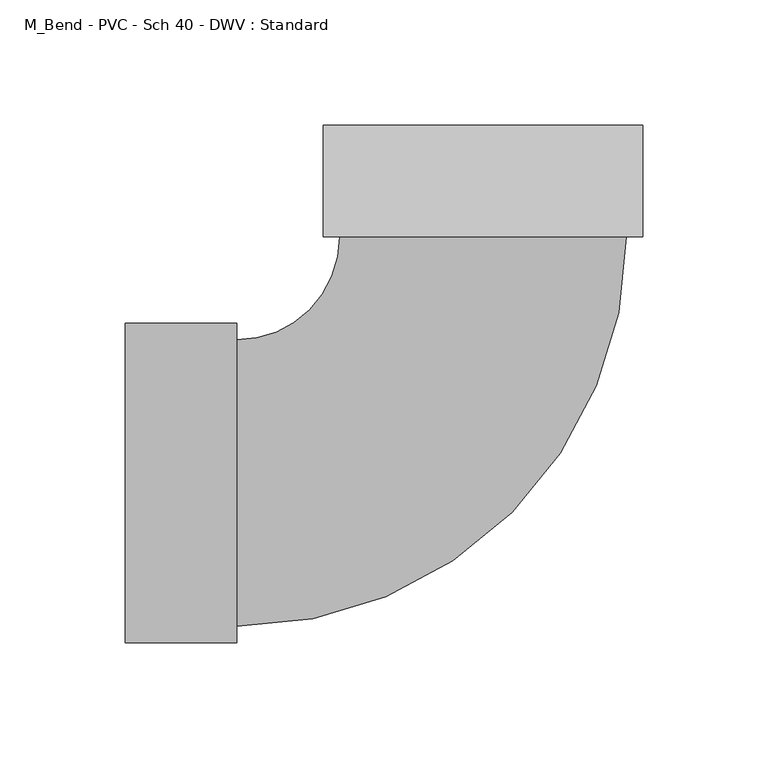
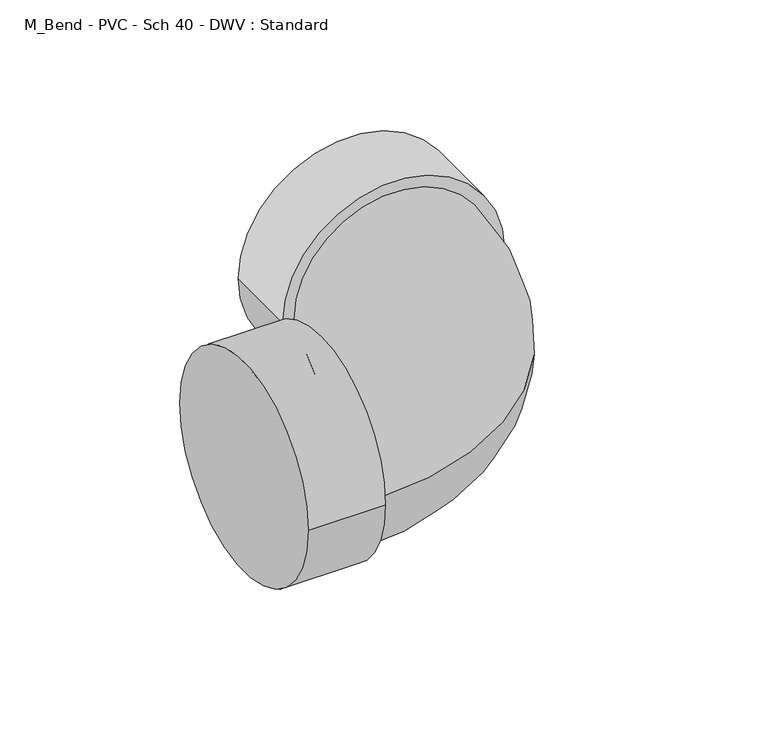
"""IFC4 building model written with IfcOpenShell, lengths in millimetres: pipe fitting geometry, M_Bend - PVC - Sch 40 - DWV : Standard."""

from ifc_helpers import new_model, si_unit, point, frame, origin, place, context, project, spatial, circle_curve, ellipse_curve, trimmed, source, transform, mapped, element, save
from ifc_brep_helpers import plane_surface, cylinder_surface, revolved_surface, advanced_brep


def m_bend_pvc_sch_40_dwv_standard_59af4741(model_context):
    return source(origin(), model_context, "Body", "AdvancedBrep", [
        advanced_brep(
        [(-142.875, -63.754, 0.0), (-142.875, 63.754, 0.0), (-98.425, -63.754, 0.0), (-98.425, 63.754, 0.0), (-98.425, -57.15, 0.0), (-98.425, 57.15, 0.0), (-57.1748784, 98.4105503, 0.0), (57.125118, 98.4394434, 0.0), (63.7291178, 98.4411128, 0.0), (-63.7788782, 98.4088809, 0.0), (63.7178815, 142.8911114, 0.0), (-63.7901144, 142.8588795, 0.0)],
        [
            (0, 1, circle_curve(frame((-142.875, 0.0, 0.0), z_axis=(-1.0, 0.0, 0.0), x_axis=(0.0, 1.0, 0.0)), 63.754)),
            (1, 0, circle_curve(frame((-142.875, 0.0, 0.0), z_axis=(-1.0, 0.0, 0.0), x_axis=(0.0, 1.0, 0.0)), 63.754)),
            (2, 3, circle_curve(frame((-98.425, 0.0, 0.0), z_axis=(1.0, 0.0, 0.0), x_axis=(0.0, 1.0, 0.0)), 63.754)),
            (3, 2, circle_curve(frame((-98.425, 0.0, 0.0), z_axis=(1.0, 0.0, 0.0), x_axis=(0.0, 1.0, 0.0)), 63.754)),
            (4, 5, circle_curve(frame((-98.425, 0.0, 0.0), z_axis=(-1.0, 0.0, 0.0), x_axis=(0.0, 1.0, 0.0)), 57.15)),
            (5, 4, circle_curve(frame((-98.425, 0.0, 0.0), z_axis=(-1.0, 0.0, 0.0), x_axis=(0.0, 1.0, 0.0)), 57.15)),
            (0, 2),
            (3, 1),
            (6, 5, circle_curve(frame((-98.425, 98.4001229, 0.0), z_axis=(0.0, 0.0, -1.0), x_axis=(0.0, -1.0, 0.0)), 41.2501229)),
            (4, 7, circle_curve(frame((-98.425, 98.4001229, 0.0), z_axis=(0.0, 0.0, 1.0), x_axis=(0.0, -1.0, 0.0)), 155.5501229)),
            (7, 6, circle_curve(frame((-0.0248802, 98.4249969, 0.0), z_axis=(0.0002527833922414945, -0.9999999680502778, 0.0), x_axis=(-0.9999999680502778, -0.0002527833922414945, 0.0)), 57.15)),
            (6, 7, circle_curve(frame((-0.0248802, 98.4249969, 0.0), z_axis=(0.0002527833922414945, -0.9999999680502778, 0.0), x_axis=(-0.9999999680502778, -0.0002527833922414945, 0.0)), 57.15)),
            (8, 9, circle_curve(frame((-0.0248802, 98.4249969, 0.0), z_axis=(0.0002527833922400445, -0.9999999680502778, 0.0), x_axis=(-0.9999999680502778, -0.0002527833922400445, 0.0)), 63.754)),
            (9, 8, circle_curve(frame((-0.0248802, 98.4249969, 0.0), z_axis=(0.0002527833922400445, -0.9999999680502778, 0.0), x_axis=(-0.9999999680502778, -0.0002527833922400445, 0.0)), 63.754)),
            (10, 11, circle_curve(frame((-0.0361164, 142.8749954, 0.0), z_axis=(-0.0002527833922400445, 0.9999999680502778, 0.0), x_axis=(-0.9999999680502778, -0.0002527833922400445, 0.0)), 63.754)),
            (11, 10, circle_curve(frame((-0.0361164, 142.8749954, 0.0), z_axis=(-0.0002527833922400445, 0.9999999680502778, 0.0), x_axis=(-0.9999999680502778, -0.0002527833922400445, 0.0)), 63.754)),
            (8, 10),
            (11, 9),
        ],
        [
            plane_surface(frame((-142.875, 0.0, 0.0), z_axis=(-1.0, 0.0, 0.0), x_axis=(0.0, 0.0, 1.0))),
            plane_surface(frame((-98.425, 0.0, 0.0), z_axis=(1.0, 0.0, 0.0), x_axis=(0.0, 0.0, 1.0))),
            cylinder_surface(frame((-142.875, 0.0, 0.0), z_axis=(-1.0, 0.0, 0.0), x_axis=(0.0, 1.0, 0.0)), 63.754),
            revolved_surface(trimmed(ellipse_curve(frame((-98.425, 0.0, 0.0), z_axis=(-1.0, 0.0, 0.0), x_axis=(0.0, 1.0, 0.0)), 57.15, 57.15), [point((-98.425, -57.15, 0.0))], [point((-98.425, 57.15, 0.0))], True, "CARTESIAN"), (-98.425, 98.4001229, 0.0), (0.0, 0.0, 1.0)),
            revolved_surface(trimmed(ellipse_curve(frame((-98.425, 0.0, 0.0), z_axis=(-1.0, 0.0, 0.0), x_axis=(0.0, 1.0, 0.0)), 57.15, 57.15), [point((-98.425, 57.15, 0.0))], [point((-98.425, -57.15, 0.0))], True, "CARTESIAN"), (-98.425, 98.4001229, 0.0), (0.0, 0.0, 1.0)),
            plane_surface(frame((-0.0248802, 98.4249969, 0.0), z_axis=(0.0002527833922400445, -0.9999999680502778, 0.0), x_axis=(0.0, 0.0, 1.0))),
            plane_surface(frame((-0.0361164, 142.8749954, 0.0), z_axis=(-0.0002527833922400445, 0.9999999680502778, 0.0), x_axis=(0.0, 0.0, 1.0))),
            cylinder_surface(frame((-0.0248802, 98.4249969, 0.0), z_axis=(0.0002527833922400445, -0.9999999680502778, 0.0), x_axis=(-0.9999999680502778, -0.0002527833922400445, 0.0)), 63.754),
        ],
        [
            (0, [[1, 2]]),
            (1, [[3, 4], [5, 6]]),
            (2, [[-1, 7, -4, 8]]),
            (2, [[-2, -8, -3, -7]]),
            (3, [[9, -5, 10, 11]]),
            (4, [[-9, 12, -10, -6]]),
            (5, [[13, 14], [-11, -12]]),
            (6, [[15, 16]]),
            (7, [[-13, 17, -16, 18]]),
            (7, [[-14, -18, -15, -17]]),
        ],
    ),
    ])


if __name__ == "__main__":
    model = new_model("IFC4")
    model_context = context("Model", 3, world=origin())
    ifc_project = project(units=[si_unit("LENGTHUNIT", "METRE", prefix="MILLI")], contexts=[model_context])
    site = spatial("IfcSite", under=ifc_project)
    building = spatial("IfcBuilding", under=site)
    placement = place(None, origin())
    m_bend_pvc_sch_40_dwv_standard_shape = m_bend_pvc_sch_40_dwv_standard_59af4741(model_context)
    element("IfcPipeFitting", 1, ObjectType="M_Bend - PVC - Sch 40 - DWV : Standard", at=placement, inside=building, context=model_context, shape_type="MappedRepresentation", body=[
        mapped(m_bend_pvc_sch_40_dwv_standard_shape, transform((0.0, 0.0, 0.0), x_axis=(1.0, 0.0, 0.0), y_axis=(0.0, 1.0, 0.0), z_axis=(0.0, 0.0, 1.0))),
    ])
    save(model, "model.ifc")
